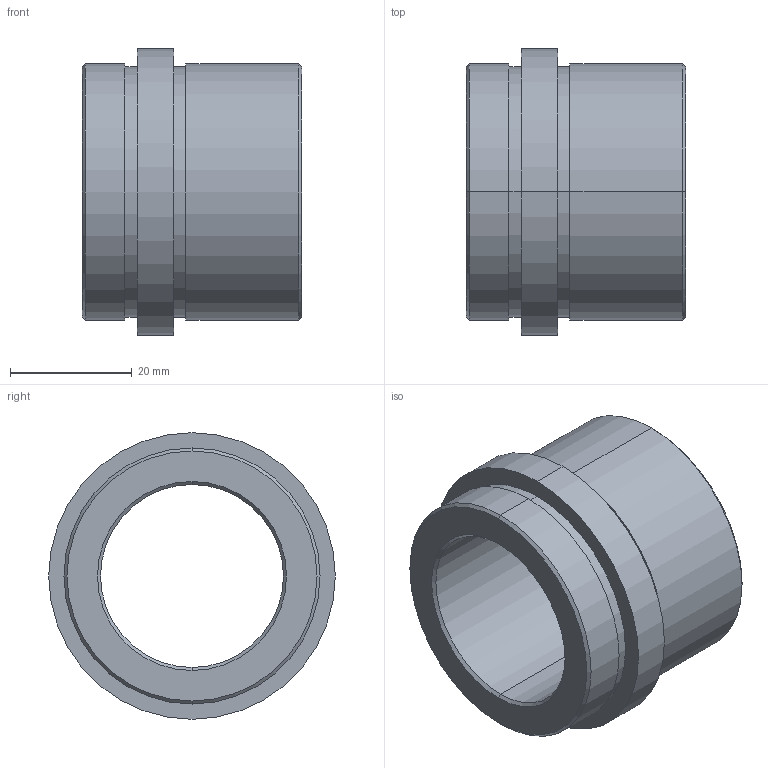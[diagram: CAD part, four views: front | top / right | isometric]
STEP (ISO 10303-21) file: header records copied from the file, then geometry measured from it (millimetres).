
FILE_DESCRIPTION( ( 'STEP AP203' ), '1' );
FILE_NAME( 'C:/Projects/D21 - 30x27.step', '2002-12-31T22:58:38', ( ' ' ), ( ' ' ), 'XStep 1.0', ' ', ' ' );
FILE_SCHEMA( ( 'CONFIG_CONTROL_DESIGN' ) );
Length unit declared in the file: metre
Products named in the file (1): 1
Bounding box: 36 x 47 x 47 mm (x, y, z)
Volume: 26208.7 mm3; surface area: 10409.1 mm2
Topology: 1 solids, 1 shells, 26 faces, 52 edges, 32 vertices
Faces by surface type: revolution 20, bspline 6
Entity records: 773 total; most frequent: CARTESIAN_POINT 169, DIRECTION 106, ORIENTED_EDGE 104, EDGE_CURVE 52, AXIS2_PLACEMENT_3D 33, EDGE_LOOP 32, VERTEX_POINT 32, CIRCLE 32
